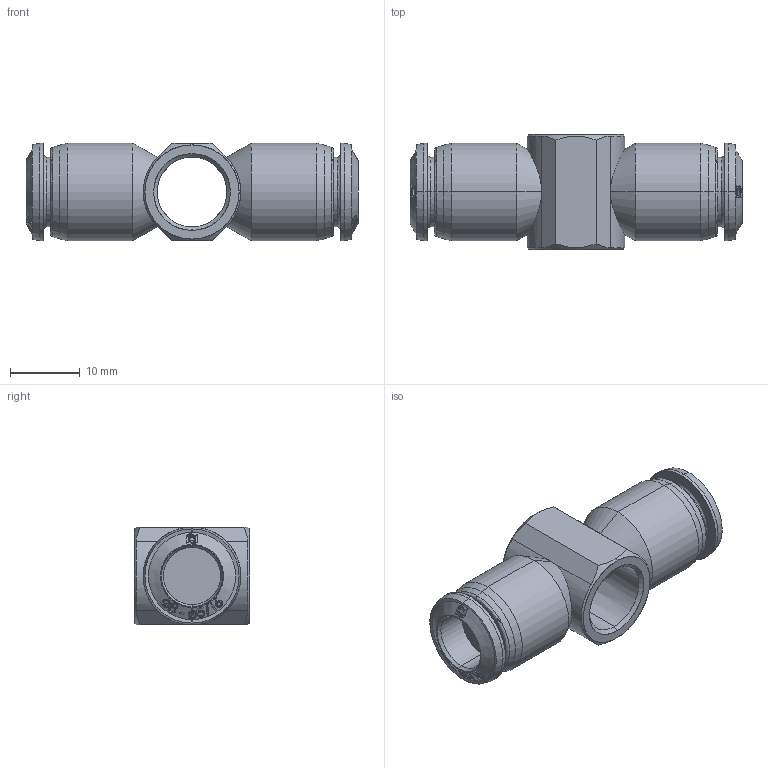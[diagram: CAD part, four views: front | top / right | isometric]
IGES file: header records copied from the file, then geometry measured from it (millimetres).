
Start section: SolidWorks IGES file using analytic representation for surfaces
Global section: file name: K:\Disegni Esecutivi\Serie 55000\ASSIEMI_55000\55510\ASSIEMI_PIENI_55510\5551000012.IGS; native system: SolidWorks 2007; preprocessor: SolidWorks 2007; author: cad02; date: 071130.160737; units: millimetre
Bounding box: 47.6 x 16.5 x 14 mm (x, y, z)
Surface area: 3604.5 mm2 (no closed solid volume)
Topology: 0 solids, 0 shells, 362 faces, 4140 edges, 4134 vertices
Faces by surface type: bspline 254, revolution 108
